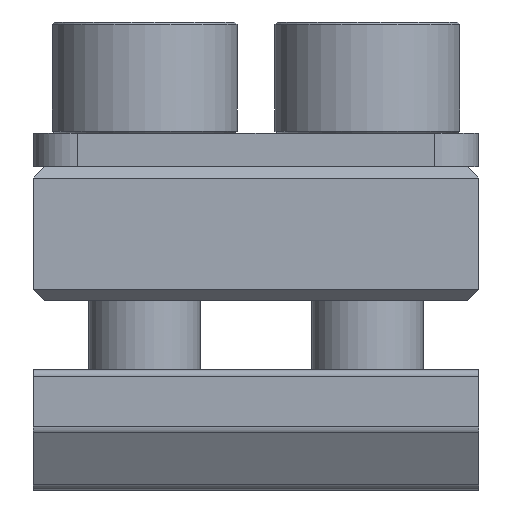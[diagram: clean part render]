
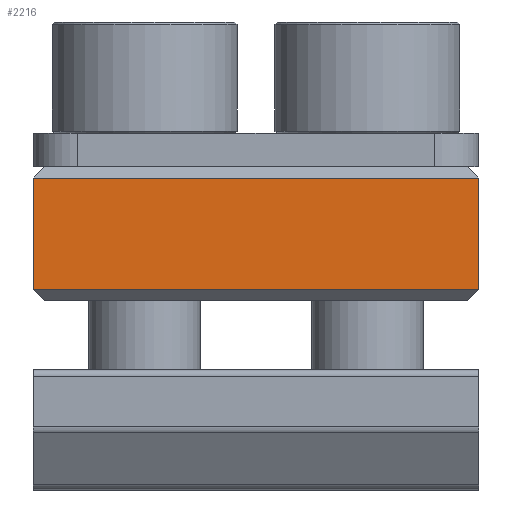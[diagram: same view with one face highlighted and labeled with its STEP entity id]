
A CAD part, front view. The second image highlights one B-rep face of the part: STEP entity #2216.
In plain terms, the highlighted planar face has unit normal (0, -1, 0).
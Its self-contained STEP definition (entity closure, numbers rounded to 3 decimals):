
#32 = FACE_OUTER_BOUND ( 'NONE', #75, .T. ) ;
#75 = EDGE_LOOP ( 'NONE', ( #835, #405, #3728, #3845 ) ) ;
#246 = CARTESIAN_POINT ( 'NONE',  ( -10., -37.5, 0.5 ) ) ;
#270 = VERTEX_POINT ( 'NONE', #3250 ) ;
#401 = VECTOR ( 'NONE', #2345, 1000. ) ;
#405 = ORIENTED_EDGE ( 'NONE', *, *, #3646, .T. ) ;
#741 = VERTEX_POINT ( 'NONE', #246 ) ;
#835 = ORIENTED_EDGE ( 'NONE', *, *, #3676, .T. ) ;
#1044 = LINE ( 'NONE', #1257, #1721 ) ;
#1108 = CARTESIAN_POINT ( 'NONE',  ( 10., -37.5, 5.5 ) ) ;
#1257 = CARTESIAN_POINT ( 'NONE',  ( 10., -37.5, 6. ) ) ;
#1404 = LINE ( 'NONE', #4220, #2377 ) ;
#1531 = CARTESIAN_POINT ( 'NONE',  ( -10., -37.5, 5.5 ) ) ;
#1721 = VECTOR ( 'NONE', #1957, 1000. ) ;
#1957 = DIRECTION ( 'NONE',  ( 0., 0., -1. ) ) ;
#2061 = CARTESIAN_POINT ( 'NONE',  ( 0., -37.5, 5.5 ) ) ;
#2187 = DIRECTION ( 'NONE',  ( 0., -1., 0. ) ) ;
#2216 = ADVANCED_FACE ( 'NONE', ( #32 ), #4312, .T. ) ;
#2345 = DIRECTION ( 'NONE',  ( -1., 0., 0. ) ) ;
#2377 = VECTOR ( 'NONE', #2444, 1000. ) ;
#2444 = DIRECTION ( 'NONE',  ( 0., 0., -1. ) ) ;
#2596 = LINE ( 'NONE', #2718, #2987 ) ;
#2718 = CARTESIAN_POINT ( 'NONE',  ( 10., -37.5, 0.5 ) ) ;
#2860 = DIRECTION ( 'NONE',  ( 0., 0., -1. ) ) ;
#2987 = VECTOR ( 'NONE', #3808, 1000. ) ;
#3094 = AXIS2_PLACEMENT_3D ( 'NONE', #4279, #2187, #2860 ) ;
#3250 = CARTESIAN_POINT ( 'NONE',  ( 10., -37.5, 0.5 ) ) ;
#3549 = LINE ( 'NONE', #2061, #401 ) ;
#3646 = EDGE_CURVE ( 'NONE', #741, #270, #2596, .T. ) ;
#3676 = EDGE_CURVE ( 'NONE', #4055, #741, #1404, .T. ) ;
#3728 = ORIENTED_EDGE ( 'NONE', *, *, #4393, .F. ) ;
#3808 = DIRECTION ( 'NONE',  ( 1., 0., 0. ) ) ;
#3845 = ORIENTED_EDGE ( 'NONE', *, *, #4625, .T. ) ;
#3926 = VERTEX_POINT ( 'NONE', #1108 ) ;
#4055 = VERTEX_POINT ( 'NONE', #1531 ) ;
#4220 = CARTESIAN_POINT ( 'NONE',  ( -10., -37.5, 6. ) ) ;
#4279 = CARTESIAN_POINT ( 'NONE',  ( 0., -37.5, 6. ) ) ;
#4312 = PLANE ( 'NONE',  #3094 ) ;
#4393 = EDGE_CURVE ( 'NONE', #3926, #270, #1044, .T. ) ;
#4625 = EDGE_CURVE ( 'NONE', #3926, #4055, #3549, .T. ) ;
